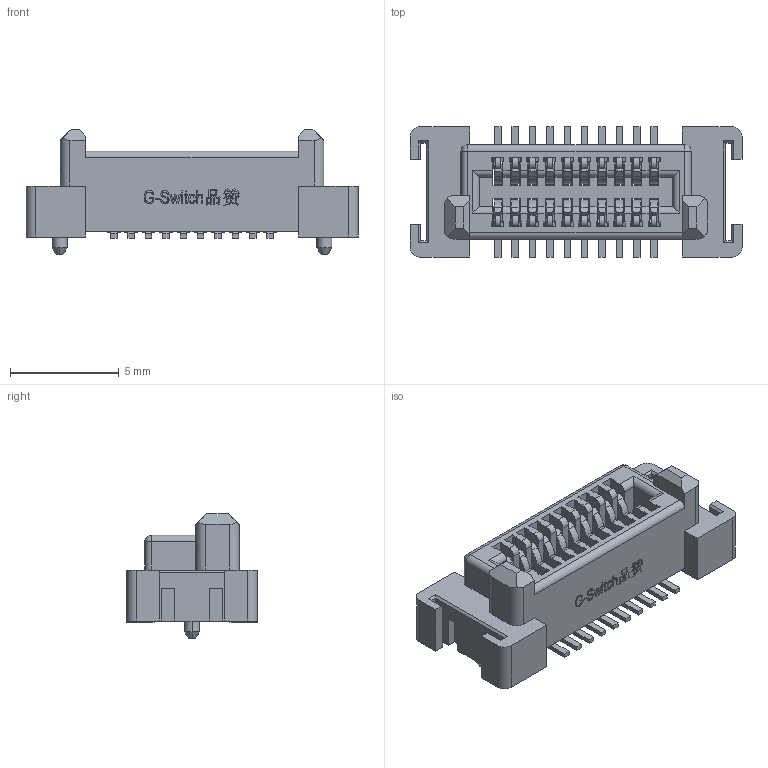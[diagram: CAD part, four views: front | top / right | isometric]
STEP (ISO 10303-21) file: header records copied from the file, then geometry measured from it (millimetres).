
FILE_DESCRIPTION (( 'STEP AP203' ), '1' );
FILE_NAME ('GT-B0810FSV40-20B0101.STEP', '2025-12-29T01:04:13', ( '' ), ( '' ), 'SwSTEP 2.0', 'SolidWorks 2020', '' );
FILE_SCHEMA (( 'CONFIG_CONTROL_DESIGN' ));
Products named in the file (1): GT-B0810FSV40-20B0101
Bounding box: 15.3 x 6.01 x 5.75 mm (x, y, z)
Volume: 180.3 mm3; surface area: 705.8 mm2
Topology: 1 solids, 1 shells, 1995 faces, 5798 edges, 3806 vertices
Faces by surface type: plane 1594, cylinder 322, bspline 71, cone 6, sphere 2
Entity records: 68664 total; most frequent: CARTESIAN_POINT 15808, ORIENTED_EDGE 11592, DIRECTION 10182, EDGE_CURVE 5796, LINE 4892, VECTOR 4892, VERTEX_POINT 3806, AXIS2_PLACEMENT_3D 2645
